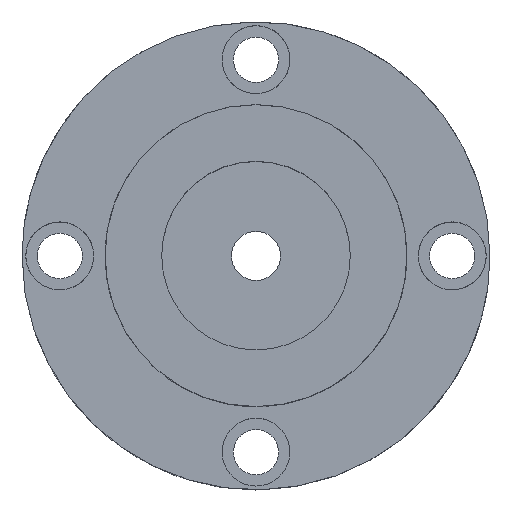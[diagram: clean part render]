
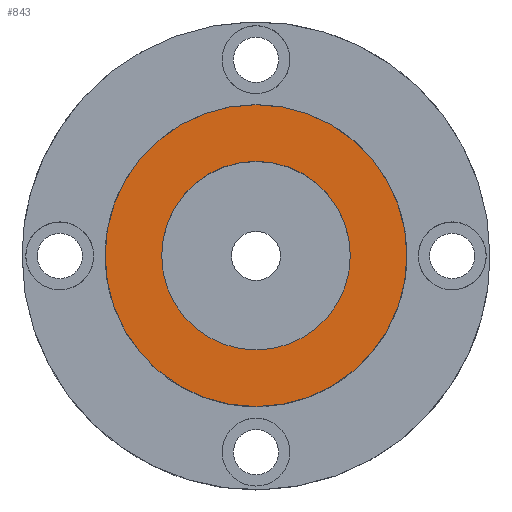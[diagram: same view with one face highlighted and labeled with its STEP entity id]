
A CAD part, top view. The second image highlights one B-rep face of the part: STEP entity #843.
In plain terms, the highlighted planar face has unit normal (0, 0, 1).
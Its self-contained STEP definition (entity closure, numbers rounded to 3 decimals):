
#387=AXIS2_PLACEMENT_3D('Circle Axis2P3D',#385,#386,$) ;
#413=AXIS2_PLACEMENT_3D('Circle Axis2P3D',#411,#412,$) ;
#772=AXIS2_PLACEMENT_3D('Circle Axis2P3D',#770,#771,$) ;
#791=AXIS2_PLACEMENT_3D('Circle Axis2P3D',#789,#790,$) ;
#833=AXIS2_PLACEMENT_3D('Plane Axis2P3D',#830,#831,#832) ;
#385=CARTESIAN_POINT('Axis2P3D Location',(0.,0.,30.)) ;
#389=CARTESIAN_POINT('Vertex',(20.,0.,30.)) ;
#391=CARTESIAN_POINT('Vertex',(-20.,0.,30.)) ;
#411=CARTESIAN_POINT('Axis2P3D Location',(0.,0.,30.)) ;
#767=CARTESIAN_POINT('Vertex',(-12.5,0.,30.)) ;
#770=CARTESIAN_POINT('Axis2P3D Location',(0.,0.,30.)) ;
#774=CARTESIAN_POINT('Vertex',(12.5,0.,30.)) ;
#789=CARTESIAN_POINT('Axis2P3D Location',(0.,0.,30.)) ;
#830=CARTESIAN_POINT('Axis2P3D Location',(0.,0.,30.)) ;
#386=DIRECTION('Axis2P3D Direction',(0.,0.,1.)) ;
#412=DIRECTION('Axis2P3D Direction',(0.,0.,1.)) ;
#771=DIRECTION('Axis2P3D Direction',(0.,0.,1.)) ;
#790=DIRECTION('Axis2P3D Direction',(0.,0.,1.)) ;
#831=DIRECTION('Axis2P3D Direction',(0.,0.,1.)) ;
#832=DIRECTION('Axis2P3D XDirection',(1.,0.,0.)) ;
#836=ORIENTED_EDGE('',*,*,#393,.T.) ;
#837=ORIENTED_EDGE('',*,*,#415,.T.) ;
#840=ORIENTED_EDGE('',*,*,#793,.F.) ;
#841=ORIENTED_EDGE('',*,*,#776,.F.) ;
#842=FACE_BOUND('',#839,.T.) ;
#843=ADVANCED_FACE('\X2\96F64EF651E04F554F53\X0\',(#838,#842),#834,.T.) ;
#388=CIRCLE('generated circle',#387,20.) ;
#414=CIRCLE('generated circle',#413,20.) ;
#773=CIRCLE('generated circle',#772,12.5) ;
#792=CIRCLE('generated circle',#791,12.5) ;
#393=EDGE_CURVE('',#390,#392,#388,.T.) ;
#415=EDGE_CURVE('',#392,#390,#414,.T.) ;
#776=EDGE_CURVE('',#768,#775,#773,.T.) ;
#793=EDGE_CURVE('',#775,#768,#792,.T.) ;
#835=EDGE_LOOP('',(#836,#837)) ;
#839=EDGE_LOOP('',(#840,#841)) ;
#838=FACE_OUTER_BOUND('',#835,.T.) ;
#834=PLANE('',#833) ;
#390=VERTEX_POINT('',#389) ;
#392=VERTEX_POINT('',#391) ;
#768=VERTEX_POINT('',#767) ;
#775=VERTEX_POINT('',#774) ;
